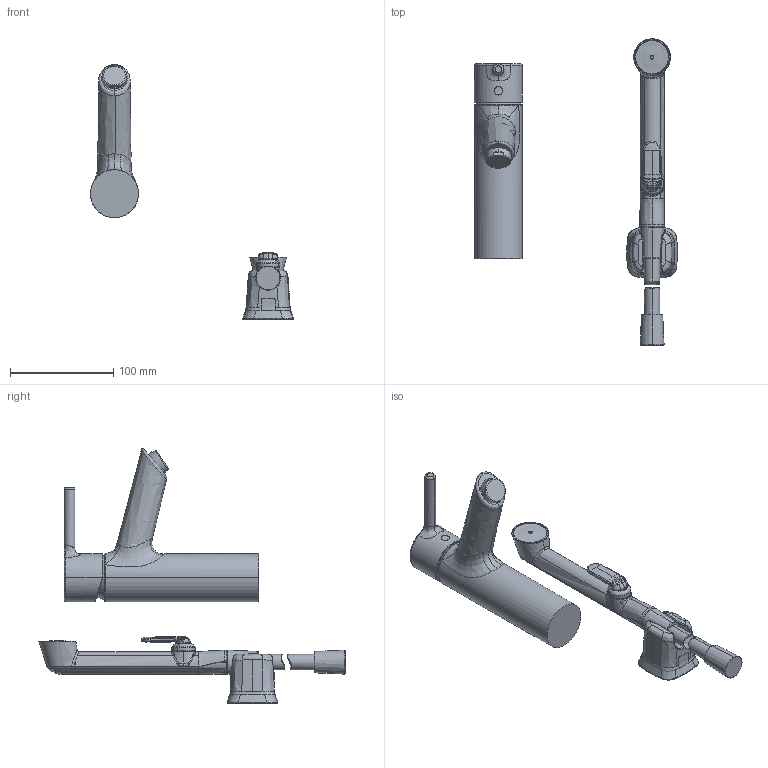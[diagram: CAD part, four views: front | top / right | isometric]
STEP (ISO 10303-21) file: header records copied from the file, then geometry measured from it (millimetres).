
FILE_DESCRIPTION (( 'STEP AP203' ), '1' );
FILE_NAME ('2606AF-105(2022)+526822670005(2022).STEP', '2022-11-02T12:19:05', ( '' ), ( '' ), 'SwSTEP 2.0', 'SolidWorks 2016', '' );
FILE_SCHEMA (( 'CONFIG_CONTROL_DESIGN' ));
Length unit declared in the file: millimetre
Products named in the file (1): 2606AF-105(2022)+526822670005(2022)
Bounding box: 196.81 x 296.68 x 246.88 mm (x, y, z)
Surface area: 89295 mm2 (no closed solid volume)
Topology: 0 solids, 12 shells, 357 faces, 857 edges, 526 vertices
Faces by surface type: bspline 262, cone 31, cylinder 28, plane 28, torus 8
Entity records: 72918 total; most frequent: CARTESIAN_POINT 66689, ORIENTED_EDGE 1705, EDGE_CURVE 853, DIRECTION 681, VERTEX_POINT 526, B_SPLINE_CURVE_WITH_KNOTS 447, EDGE_LOOP 364, ADVANCED_FACE 357
